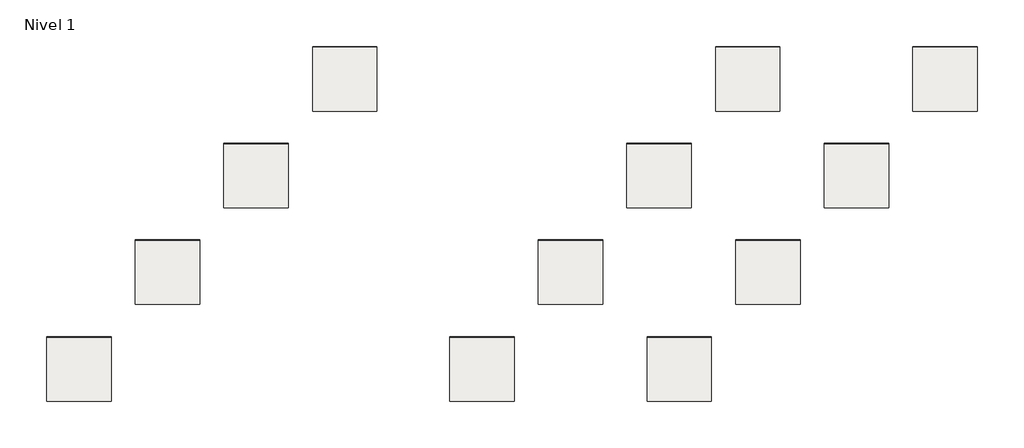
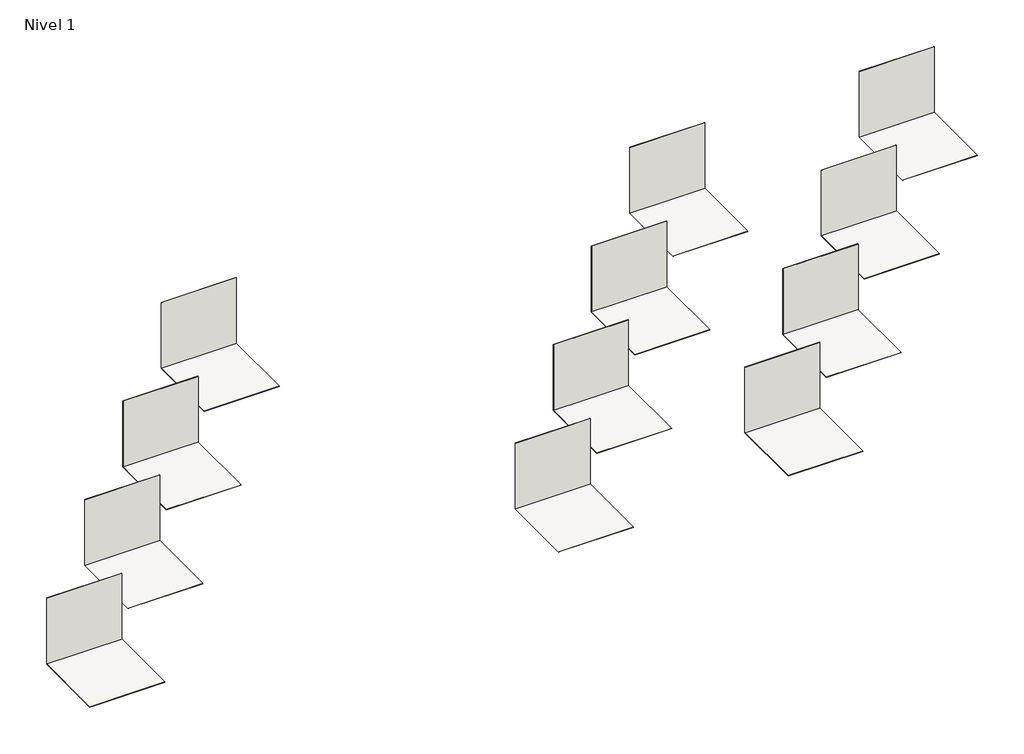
# One storey: 12 slabs, 12 walls.
"""IFC4 building model written with IfcOpenShell, lengths in millimetres."""

from ifc_helpers import new_model, si_unit, frame, origin, origin_with_axes, place, context, project, spatial, polyline, outline, extrude, element, save

model = new_model("IFC4")

# Units and contexts
model_context = context("Model", 3, world=origin())
ifc_project = project(units=[si_unit("LENGTHUNIT", "METRE", prefix="MILLI")], contexts=[model_context])

# Site, building, storey
site = spatial("IfcSite", under=ifc_project)
building = spatial("IfcBuilding", under=site)
storey = spatial("IfcBuildingStorey", under=building, Name="Nivel 1", Elevation=0.0)

# Slabs
placement = place(None, origin())
element("IfcSlab", 1, ObjectType="Pieza 50 M_Patrón 1/3_Pietro_Golden_Anti-Slip", at=placement, inside=storey, context=model_context, shape_type="SweptSolid", body=[
    extrude(outline(polyline([(2968.0038801, 4877.1285948), (2968.0038801, 3277.1285948), (1368.0038801, 3277.1285948), (1368.0038801, 4877.1285948), (2968.0038801, 4877.1285948)])), frame((0.0, 0.0, -9.0), z_axis=(0.0, 0.0, 1.0), x_axis=(1.0, 0.0, 0.0)), (0.0, 0.0, 1.0), 9.0),
])
element("IfcSlab", 2, ObjectType="Pieza 50 M_Patrón 1/3_Pietro_Dark_Anti-Slip", at=placement, inside=storey, context=model_context, shape_type="SweptSolid", body=[
    extrude(outline(polyline([(5168.0038801, 7277.1285948), (5168.0038801, 5677.1285948), (3568.0038801, 5677.1285948), (3568.0038801, 7277.1285948), (5168.0038801, 7277.1285948)])), frame((0.0, 0.0, -9.0), z_axis=(0.0, 0.0, 1.0), x_axis=(1.0, 0.0, 0.0)), (0.0, 0.0, 1.0), 9.0),
])
element("IfcSlab", 3, ObjectType="Pieza 50 M_Patrón 1/3_Pietro_Grey_Anti-Slip", at=placement, inside=storey, context=model_context, shape_type="SweptSolid", body=[
    extrude(outline(polyline([(7368.0038801, 9677.1285948), (7368.0038801, 8077.1285948), (5768.0038801, 8077.1285948), (5768.0038801, 9677.1285948), (7368.0038801, 9677.1285948)])), frame((0.0, 0.0, -9.0), z_axis=(0.0, 0.0, 1.0), x_axis=(1.0, 0.0, 0.0)), (0.0, 0.0, 1.0), 9.0),
])
element("IfcSlab", 4, ObjectType="Pieza 50 M_Patrón 1/3_Pietro_White_Anti-Slip", at=placement, inside=storey, context=model_context, shape_type="SweptSolid", body=[
    extrude(outline(polyline([(9568.0038801, 12077.1285948), (9568.0038801, 10477.1285948), (7968.0038801, 10477.1285948), (7968.0038801, 12077.1285948), (9568.0038801, 12077.1285948)])), frame((0.0, 0.0, -9.0), z_axis=(0.0, 0.0, 1.0), x_axis=(1.0, 0.0, 0.0)), (0.0, 0.0, 1.0), 9.0),
])
element("IfcSlab", 5, ObjectType="Pieza 50 M_Patrón 1/3_Mistery_Blue Stone_Anti-Slip", at=placement, inside=storey, context=model_context, shape_type="SweptSolid", body=[
    extrude(outline(polyline([(12968.0038801, 4877.1285948), (12968.0038801, 3277.1285948), (11368.0038801, 3277.1285948), (11368.0038801, 4877.1285948), (12968.0038801, 4877.1285948)])), frame((0.0, 0.0, -9.0), z_axis=(0.0, 0.0, 1.0), x_axis=(1.0, 0.0, 0.0)), (0.0, 0.0, 1.0), 9.0),
])
element("IfcSlab", 6, ObjectType="Pieza 50 M_Patrón 1/3_Mistery_Grey_Anti-Slip", at=placement, inside=storey, context=model_context, shape_type="SweptSolid", body=[
    extrude(outline(polyline([(15168.0038801, 7277.1285948), (15168.0038801, 5677.1285948), (13568.0038801, 5677.1285948), (13568.0038801, 7277.1285948), (15168.0038801, 7277.1285948)])), frame((0.0, 0.0, -9.0), z_axis=(0.0, 0.0, 1.0), x_axis=(1.0, 0.0, 0.0)), (0.0, 0.0, 1.0), 9.0),
])
element("IfcSlab", 7, ObjectType="Pieza 50 M_Patrón 1/3_Mistery_Sand_Anti-Slip", at=placement, inside=storey, context=model_context, shape_type="SweptSolid", body=[
    extrude(outline(polyline([(17368.0038801, 9677.1285948), (17368.0038801, 8077.1285948), (15768.0038801, 8077.1285948), (15768.0038801, 9677.1285948), (17368.0038801, 9677.1285948)])), frame((0.0, 0.0, -9.0), z_axis=(0.0, 0.0, 1.0), x_axis=(1.0, 0.0, 0.0)), (0.0, 0.0, 1.0), 9.0),
])
element("IfcSlab", 8, ObjectType="Pieza 50 M_Patrón 1/3_Mistery_White_Anti-Slip", at=placement, inside=storey, context=model_context, shape_type="SweptSolid", body=[
    extrude(outline(polyline([(19568.0038801, 12077.1285948), (19568.0038801, 10477.1285948), (17968.0038801, 10477.1285948), (17968.0038801, 12077.1285948), (19568.0038801, 12077.1285948)])), frame((0.0, 0.0, -9.0), z_axis=(0.0, 0.0, 1.0), x_axis=(1.0, 0.0, 0.0)), (0.0, 0.0, 1.0), 9.0),
])
element("IfcSlab", 9, ObjectType="Pieza 50 M_Patrón 1/3_Mistery_Blue Stone_Liso", at=placement, inside=storey, context=model_context, shape_type="SweptSolid", body=[
    extrude(outline(polyline([(17868.0038801, 4877.1285948), (17868.0038801, 3277.1285948), (16268.0038801, 3277.1285948), (16268.0038801, 4877.1285948), (17868.0038801, 4877.1285948)])), frame((0.0, 0.0, -9.0), z_axis=(0.0, 0.0, 1.0), x_axis=(1.0, 0.0, 0.0)), (0.0, 0.0, 1.0), 9.0),
])
element("IfcSlab", 10, ObjectType="Pieza 50 M_Patrón 1/3_Mistery_Grey_Liso", at=placement, inside=storey, context=model_context, shape_type="SweptSolid", body=[
    extrude(outline(polyline([(20068.0038801, 7277.1285948), (20068.0038801, 5677.1285948), (18468.0038801, 5677.1285948), (18468.0038801, 7277.1285948), (20068.0038801, 7277.1285948)])), frame((0.0, 0.0, -9.0), z_axis=(0.0, 0.0, 1.0), x_axis=(1.0, 0.0, 0.0)), (0.0, 0.0, 1.0), 9.0),
])
element("IfcSlab", 11, ObjectType="Pieza 50 M_Patrón 1/3_Mistery_Sand_Liso", at=placement, inside=storey, context=model_context, shape_type="SweptSolid", body=[
    extrude(outline(polyline([(22268.0038801, 9677.1285948), (22268.0038801, 8077.1285948), (20668.0038801, 8077.1285948), (20668.0038801, 9677.1285948), (22268.0038801, 9677.1285948)])), frame((0.0, 0.0, -9.0), z_axis=(0.0, 0.0, 1.0), x_axis=(1.0, 0.0, 0.0)), (0.0, 0.0, 1.0), 9.0),
])
element("IfcSlab", 12, ObjectType="Pieza 50 M_Patrón 1/3_Mistery_White_Liso", at=placement, inside=storey, context=model_context, shape_type="SweptSolid", body=[
    extrude(outline(polyline([(24468.0038801, 12077.1285948), (24468.0038801, 10477.1285948), (22868.0038801, 10477.1285948), (22868.0038801, 12077.1285948), (24468.0038801, 12077.1285948)])), frame((0.0, 0.0, -9.0), z_axis=(0.0, 0.0, 1.0), x_axis=(1.0, 0.0, 0.0)), (0.0, 0.0, 1.0), 9.0),
])

# Walls
element("IfcWall", 13, ObjectType="Pieza 50 M_Patrón 1/3_Pietro_Golden_Anti-Slip", at=placement, inside=storey, context=model_context, shape_type="SweptSolid", body=[
    extrude(outline(polyline([(2968.0038801, 4868.1285948), (1368.0038801, 4868.1285948), (1368.0038801, 4877.1285948), (2968.0038801, 4877.1285948), (2968.0038801, 4868.1285948)])), origin_with_axes(), (0.0, 0.0, 1.0), 1482.0),
])
element("IfcWall", 14, ObjectType="Pieza 50 M_Patrón 1/3_Pietro_Dark_Anti-Slip", at=placement, inside=storey, context=model_context, shape_type="SweptSolid", body=[
    extrude(outline(polyline([(5168.0038801, 7268.1285948), (3568.0038801, 7268.1285948), (3568.0038801, 7277.1285948), (5168.0038801, 7277.1285948), (5168.0038801, 7268.1285948)])), origin_with_axes(), (0.0, 0.0, 1.0), 1482.0),
])
element("IfcWall", 15, ObjectType="Pieza 50 M_Patrón 1/3_Pietro_Grey_Anti-Slip", at=placement, inside=storey, context=model_context, shape_type="SweptSolid", body=[
    extrude(outline(polyline([(7368.0038801, 9668.1285948), (5768.0038801, 9668.1285948), (5768.0038801, 9677.1285948), (7368.0038801, 9677.1285948), (7368.0038801, 9668.1285948)])), origin_with_axes(), (0.0, 0.0, 1.0), 1482.0),
])
element("IfcWall", 16, ObjectType="Pieza 50 M_Patrón 1/3_Pietro_White_Anti-Slip", at=placement, inside=storey, context=model_context, shape_type="SweptSolid", body=[
    extrude(outline(polyline([(9568.0038801, 12068.1285948), (7968.0038801, 12068.1285948), (7968.0038801, 12077.1285948), (9568.0038801, 12077.1285948), (9568.0038801, 12068.1285948)])), origin_with_axes(), (0.0, 0.0, 1.0), 1482.0),
])
element("IfcWall", 17, ObjectType="Pieza 50 M_Patrón 1/3_Mistery_Blue Stone_Anti-Slip", at=placement, inside=storey, context=model_context, shape_type="SweptSolid", body=[
    extrude(outline(polyline([(12968.0038801, 4868.1285948), (11368.0038801, 4868.1285948), (11368.0038801, 4877.1285948), (12968.0038801, 4877.1285948), (12968.0038801, 4868.1285948)])), origin_with_axes(), (0.0, 0.0, 1.0), 1482.0),
])
element("IfcWall", 18, ObjectType="Pieza 50 M_Patrón 1/3_Mistery_Grey_Anti-Slip", at=placement, inside=storey, context=model_context, shape_type="SweptSolid", body=[
    extrude(outline(polyline([(15168.0038801, 7268.1285948), (13568.0038801, 7268.1285948), (13568.0038801, 7277.1285948), (15168.0038801, 7277.1285948), (15168.0038801, 7268.1285948)])), origin_with_axes(), (0.0, 0.0, 1.0), 1482.0),
])
element("IfcWall", 19, ObjectType="Pieza 50 M_Patrón 1/3_Mistery_Sand_Anti-Slip", at=placement, inside=storey, context=model_context, shape_type="SweptSolid", body=[
    extrude(outline(polyline([(17368.0038801, 9668.1285948), (15768.0038801, 9668.1285948), (15768.0038801, 9677.1285948), (17368.0038801, 9677.1285948), (17368.0038801, 9668.1285948)])), origin_with_axes(), (0.0, 0.0, 1.0), 1482.0),
])
element("IfcWall", 20, ObjectType="Pieza 50 M_Patrón 1/3_Mistery_White_Anti-Slip", at=placement, inside=storey, context=model_context, shape_type="SweptSolid", body=[
    extrude(outline(polyline([(19568.0038801, 12068.1285948), (17968.0038801, 12068.1285948), (17968.0038801, 12077.1285948), (19568.0038801, 12077.1285948), (19568.0038801, 12068.1285948)])), origin_with_axes(), (0.0, 0.0, 1.0), 1482.0),
])
element("IfcWall", 21, ObjectType="Pieza 50 M_Patrón 1/3_Mistery_Blue Stone_Liso", at=placement, inside=storey, context=model_context, shape_type="SweptSolid", body=[
    extrude(outline(polyline([(17868.0038801, 4868.1285948), (16268.0038801, 4868.1285948), (16268.0038801, 4877.1285948), (17868.0038801, 4877.1285948), (17868.0038801, 4868.1285948)])), origin_with_axes(), (0.0, 0.0, 1.0), 1482.0),
])
element("IfcWall", 22, ObjectType="Pieza 50 M_Patrón 1/3_Mistery_Grey_Liso", at=placement, inside=storey, context=model_context, shape_type="SweptSolid", body=[
    extrude(outline(polyline([(20068.0038801, 7268.1285948), (18468.0038801, 7268.1285948), (18468.0038801, 7277.1285948), (20068.0038801, 7277.1285948), (20068.0038801, 7268.1285948)])), origin_with_axes(), (0.0, 0.0, 1.0), 1482.0),
])
element("IfcWall", 23, ObjectType="Pieza 50 M_Patrón 1/3_Mistery_Sand_Liso", at=placement, inside=storey, context=model_context, shape_type="SweptSolid", body=[
    extrude(outline(polyline([(22268.0038801, 9668.1285948), (20668.0038801, 9668.1285948), (20668.0038801, 9677.1285948), (22268.0038801, 9677.1285948), (22268.0038801, 9668.1285948)])), origin_with_axes(), (0.0, 0.0, 1.0), 1482.0),
])
element("IfcWall", 24, ObjectType="Pieza 50 M_Patrón 1/3_Mistery_White_Liso", at=placement, inside=storey, context=model_context, shape_type="SweptSolid", body=[
    extrude(outline(polyline([(24468.0038801, 12068.1285948), (22868.0038801, 12068.1285948), (22868.0038801, 12077.1285948), (24468.0038801, 12077.1285948), (24468.0038801, 12068.1285948)])), origin_with_axes(), (0.0, 0.0, 1.0), 1482.0),
])

save(model, "model.ifc")
